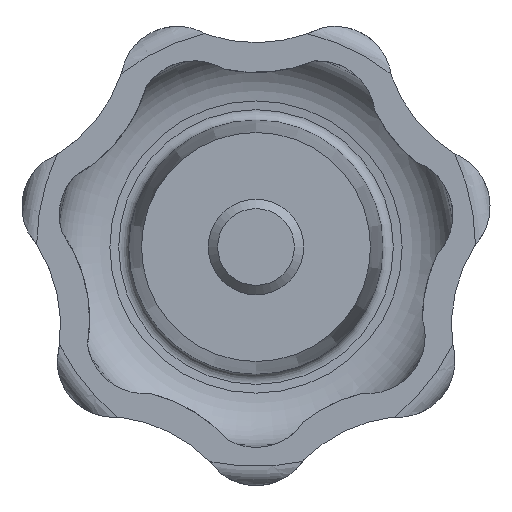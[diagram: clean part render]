
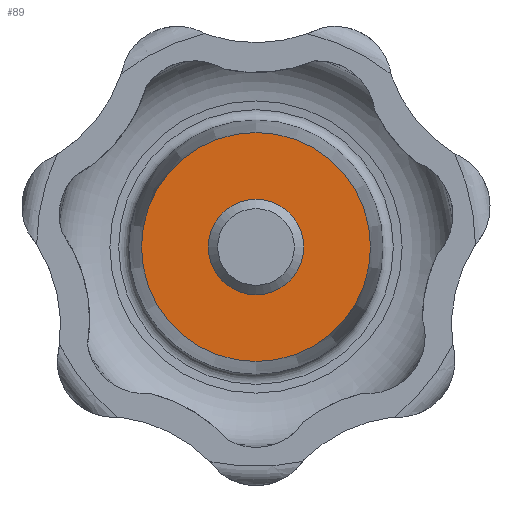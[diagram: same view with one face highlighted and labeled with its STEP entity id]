
A CAD part, front view. The second image highlights one B-rep face of the part: STEP entity #89.
In plain terms, the highlighted planar face has unit normal (0, -1, 0).
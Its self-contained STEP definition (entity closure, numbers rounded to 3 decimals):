
#89 = ADVANCED_FACE( '', ( #179, #180 ), #181, .F. );
#179 = FACE_BOUND( '', #337, .T. );
#180 = FACE_OUTER_BOUND( '', #338, .T. );
#181 = PLANE( '', #339 );
#337 = EDGE_LOOP( '', ( #593 ) );
#338 = EDGE_LOOP( '', ( #594 ) );
#339 = AXIS2_PLACEMENT_3D( '', #595, #596, #597 );
#593 = ORIENTED_EDGE( '', *, *, #1159, .F. );
#594 = ORIENTED_EDGE( '', *, *, #1160, .T. );
#595 = CARTESIAN_POINT( '', ( 6., 0., 0. ) );
#596 = DIRECTION( '', ( 0., 1., 0. ) );
#597 = DIRECTION( '', ( 0., 0., 1. ) );
#1159 = EDGE_CURVE( '', #1426, #1426, #1427, .T. );
#1160 = EDGE_CURVE( '', #1428, #1428, #1429, .T. );
#1426 = VERTEX_POINT( '', #2212 );
#1427 = CIRCLE( '', #2213, 2.5 );
#1428 = VERTEX_POINT( '', #2214 );
#1429 = CIRCLE( '', #2215, 6. );
#2212 = CARTESIAN_POINT( '', ( 0., 0., -2.5 ) );
#2213 = AXIS2_PLACEMENT_3D( '', #2970, #2971, #2972 );
#2214 = CARTESIAN_POINT( '', ( 0., 0., -6. ) );
#2215 = AXIS2_PLACEMENT_3D( '', #2973, #2974, #2975 );
#2970 = CARTESIAN_POINT( '', ( 0., 0., 0. ) );
#2971 = DIRECTION( '', ( 0., -1., 0. ) );
#2972 = DIRECTION( '', ( 0., 0., -1. ) );
#2973 = CARTESIAN_POINT( '', ( 0., 0., 0. ) );
#2974 = DIRECTION( '', ( 0., -1., 0. ) );
#2975 = DIRECTION( '', ( 0., 0., -1. ) );
